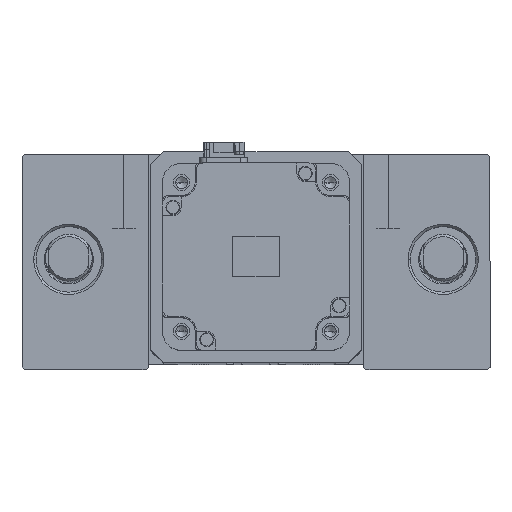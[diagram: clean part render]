
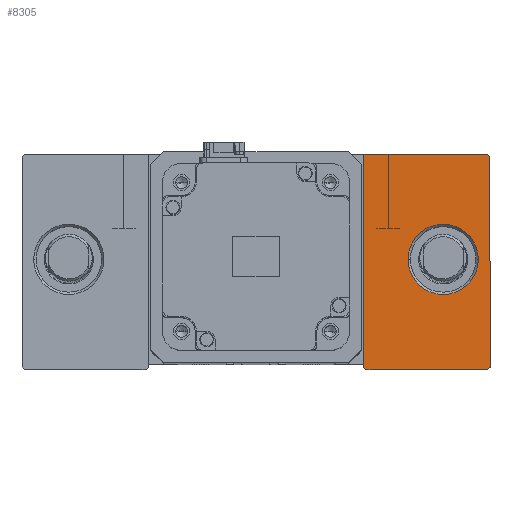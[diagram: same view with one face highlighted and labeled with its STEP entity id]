
A CAD part, top view. The second image highlights one B-rep face of the part: STEP entity #8305.
In plain terms, the highlighted planar face has unit normal (0, 0, 1).
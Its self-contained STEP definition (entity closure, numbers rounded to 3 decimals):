
#236 = ORIENTED_EDGE ( 'NONE', *, *, #27836, .T. ) ;
#2407 = DIRECTION ( 'NONE',  ( 1., 0., 0. ) ) ;
#4073 = CARTESIAN_POINT ( 'NONE',  ( 99., -47., 35. ) ) ;
#4144 = LINE ( 'NONE', #26258, #33983 ) ;
#5024 = LINE ( 'NONE', #5836, #37313 ) ;
#5740 = CARTESIAN_POINT ( 'NONE',  ( 100., 44., 35. ) ) ;
#5836 = CARTESIAN_POINT ( 'NONE',  ( 72., 72., 35. ) ) ;
#8305 = ADVANCED_FACE ( 'NONE', ( #8439, #38250 ), #12843, .T. ) ;
#8439 = FACE_BOUND ( 'NONE', #32940, .T. ) ;
#8575 = EDGE_CURVE ( 'NONE', #49815, #44426, #4144, .T. ) ;
#8660 = LINE ( 'NONE', #23870, #29334 ) ;
#8952 = DIRECTION ( 'NONE',  ( 0., 0., 1. ) ) ;
#9414 = ORIENTED_EDGE ( 'NONE', *, *, #20656, .T. ) ;
#9685 = VECTOR ( 'NONE', #47416, 1000. ) ;
#12411 = EDGE_CURVE ( 'NONE', #44486, #48401, #8660, .T. ) ;
#12843 = PLANE ( 'NONE',  #38955 ) ;
#14534 = DIRECTION ( 'NONE',  ( 0.707, 0.707, 0. ) ) ;
#14555 = ORIENTED_EDGE ( 'NONE', *, *, #26601, .T. ) ;
#15429 = VECTOR ( 'NONE', #27205, 1000. ) ;
#16406 = ORIENTED_EDGE ( 'NONE', *, *, #12411, .T. ) ;
#16776 = CARTESIAN_POINT ( 'NONE',  ( 0., 0., 35. ) ) ;
#17246 = DIRECTION ( 'NONE',  ( 0., 0., -1. ) ) ;
#17486 = VERTEX_POINT ( 'NONE', #24737 ) ;
#20088 = ORIENTED_EDGE ( 'NONE', *, *, #31418, .T. ) ;
#20656 = EDGE_CURVE ( 'NONE', #33874, #17486, #25752, .T. ) ;
#20664 = LINE ( 'NONE', #27612, #50403 ) ;
#23870 = CARTESIAN_POINT ( 'NONE',  ( 0., 0., 35. ) ) ;
#23924 = CIRCLE ( 'NONE', #37512, 15. ) ;
#24737 = CARTESIAN_POINT ( 'NONE',  ( 46., 45., 35. ) ) ;
#25468 = CARTESIAN_POINT ( 'NONE',  ( 95., 0., 35. ) ) ;
#25713 = DIRECTION ( 'NONE',  ( 0., 0., -1. ) ) ;
#25752 = LINE ( 'NONE', #42653, #15429 ) ;
#26258 = CARTESIAN_POINT ( 'NONE',  ( 73., -73., 35. ) ) ;
#26601 = EDGE_CURVE ( 'NONE', #44426, #34119, #20664, .T. ) ;
#27205 = DIRECTION ( 'NONE',  ( -1., 0., 0. ) ) ;
#27612 = CARTESIAN_POINT ( 'NONE',  ( 100., 45., 35. ) ) ;
#27836 = EDGE_CURVE ( 'NONE', #48401, #49815, #50267, .T. ) ;
#28655 = ORIENTED_EDGE ( 'NONE', *, *, #38873, .T. ) ;
#29334 = VECTOR ( 'NONE', #35459, 1000. ) ;
#30375 = LINE ( 'NONE', #31847, #9685 ) ;
#31418 = EDGE_CURVE ( 'NONE', #32725, #46621, #23924, .T. ) ;
#31540 = DIRECTION ( 'NONE',  ( 0., 1., 0. ) ) ;
#31847 = CARTESIAN_POINT ( 'NONE',  ( 46., 45., 35. ) ) ;
#32725 = VERTEX_POINT ( 'NONE', #41230 ) ;
#32940 = EDGE_LOOP ( 'NONE', ( #28655, #20088 ) ) ;
#33081 = DIRECTION ( 'NONE',  ( -0.707, 0.707, 0. ) ) ;
#33874 = VERTEX_POINT ( 'NONE', #38782 ) ;
#33983 = VECTOR ( 'NONE', #14534, 1000. ) ;
#34119 = VERTEX_POINT ( 'NONE', #5740 ) ;
#35459 = DIRECTION ( 'NONE',  ( 0.707, -0.707, 0. ) ) ;
#35590 = AXIS2_PLACEMENT_3D ( 'NONE', #48251, #25713, #2407 ) ;
#37313 = VECTOR ( 'NONE', #33081, 1000. ) ;
#37512 = AXIS2_PLACEMENT_3D ( 'NONE', #40505, #17246, #44397 ) ;
#37644 = CIRCLE ( 'NONE', #35590, 15. ) ;
#37752 = CARTESIAN_POINT ( 'NONE',  ( 46., -46., 35. ) ) ;
#38250 = FACE_OUTER_BOUND ( 'NONE', #48359, .T. ) ;
#38759 = ORIENTED_EDGE ( 'NONE', *, *, #47165, .T. ) ;
#38782 = CARTESIAN_POINT ( 'NONE',  ( 99., 45., 35. ) ) ;
#38873 = EDGE_CURVE ( 'NONE', #46621, #32725, #37644, .T. ) ;
#38955 = AXIS2_PLACEMENT_3D ( 'NONE', #16776, #8952, #47823 ) ;
#39558 = ORIENTED_EDGE ( 'NONE', *, *, #8575, .T. ) ;
#40505 = CARTESIAN_POINT ( 'NONE',  ( 80., 0., 35. ) ) ;
#40957 = DIRECTION ( 'NONE',  ( 1., 0., 0. ) ) ;
#41230 = CARTESIAN_POINT ( 'NONE',  ( 65., 0., 35. ) ) ;
#41303 = CARTESIAN_POINT ( 'NONE',  ( 100., -46., 35. ) ) ;
#42653 = CARTESIAN_POINT ( 'NONE',  ( 46., 45., 35. ) ) ;
#44397 = DIRECTION ( 'NONE',  ( 1., 0., 0. ) ) ;
#44426 = VERTEX_POINT ( 'NONE', #41303 ) ;
#44486 = VERTEX_POINT ( 'NONE', #37752 ) ;
#46621 = VERTEX_POINT ( 'NONE', #25468 ) ;
#47165 = EDGE_CURVE ( 'NONE', #34119, #33874, #5024, .T. ) ;
#47360 = ORIENTED_EDGE ( 'NONE', *, *, #49359, .T. ) ;
#47416 = DIRECTION ( 'NONE',  ( 0., -1., 0. ) ) ;
#47823 = DIRECTION ( 'NONE',  ( 1., 0., 0. ) ) ;
#48251 = CARTESIAN_POINT ( 'NONE',  ( 80., 0., 35. ) ) ;
#48359 = EDGE_LOOP ( 'NONE', ( #47360, #16406, #236, #39558, #14555, #38759, #9414 ) ) ;
#48401 = VERTEX_POINT ( 'NONE', #49198 ) ;
#48537 = CARTESIAN_POINT ( 'NONE',  ( 46., -47., 35. ) ) ;
#49029 = VECTOR ( 'NONE', #40957, 1000. ) ;
#49198 = CARTESIAN_POINT ( 'NONE',  ( 47., -47., 35. ) ) ;
#49359 = EDGE_CURVE ( 'NONE', #17486, #44486, #30375, .T. ) ;
#49815 = VERTEX_POINT ( 'NONE', #4073 ) ;
#50267 = LINE ( 'NONE', #48537, #49029 ) ;
#50403 = VECTOR ( 'NONE', #31540, 1000. ) ;
